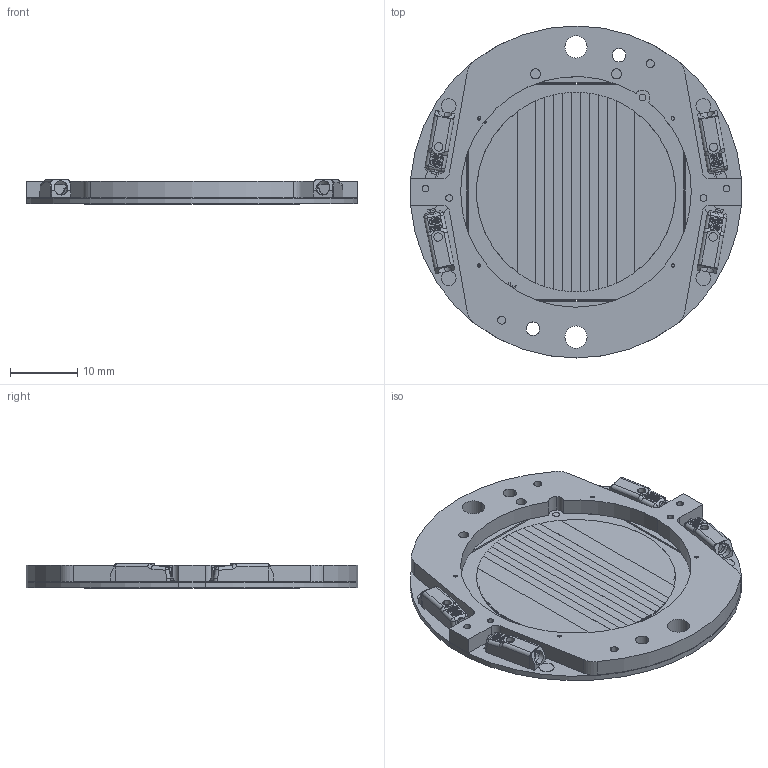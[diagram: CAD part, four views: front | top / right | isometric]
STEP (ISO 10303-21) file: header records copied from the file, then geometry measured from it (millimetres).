
FILE_DESCRIPTION (( 'STEP AP214' ), '1' );
FILE_NAME ('NTW 29 Holder-CoB Assembly.STEP', '2020-06-23T03:03:28', ( '' ), ( '' ), 'SwSTEP 2.0', 'SolidWorks 2020', '' );
FILE_SCHEMA (( 'AUTOMOTIVE_DESIGN' ));
Length unit declared in the file: millimetre
Products named in the file (1): NTW 29 Holder-CoB Assembly
Bounding box: 49.04 x 49.2 x 3.7 mm (x, y, z)
Volume: 3905.1 mm3; surface area: 6695.7 mm2
Topology: 1 solids, 2 shells, 1492 faces, 4069 edges, 2674 vertices
Faces by surface type: plane 939, cylinder 460, bspline 75, sphere 8, torus 6, cone 4
Entity records: 71950 total; most frequent: CARTESIAN_POINT 17768, ORIENTED_EDGE 8122, DIRECTION 7465, EDGE_CURVE 4061, LINE 2825, VECTOR 2825, VERTEX_POINT 2674, AXIS2_PLACEMENT_3D 2320
